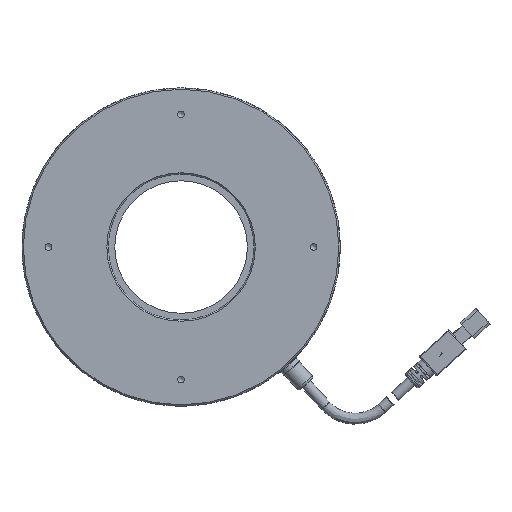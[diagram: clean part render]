
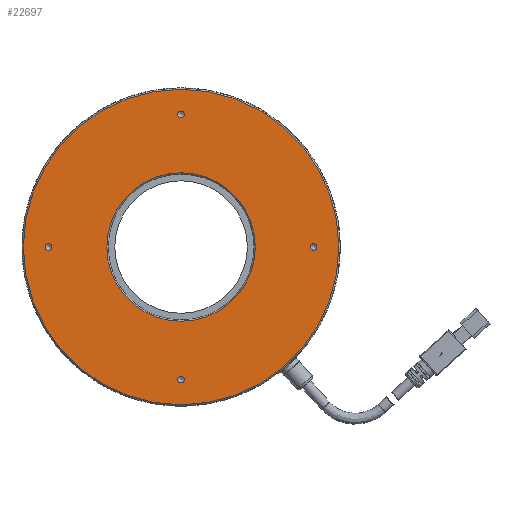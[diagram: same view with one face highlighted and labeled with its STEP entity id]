
A CAD part, front view. The second image highlights one B-rep face of the part: STEP entity #22697.
In plain terms, the highlighted planar face has unit normal (0, -1, 0).
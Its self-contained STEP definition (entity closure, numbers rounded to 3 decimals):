
#128 = CIRCLE ( 'NONE', #17377, 1.25 ) ;
#738 = CARTESIAN_POINT ( 'NONE',  ( 0., -49.548, 0. ) ) ;
#1035 = CARTESIAN_POINT ( 'NONE',  ( 0., -49.548, 51.25 ) ) ;
#1559 = FACE_BOUND ( 'NONE', #19462, .T. ) ;
#2240 = CARTESIAN_POINT ( 'NONE',  ( 0., -49.548, 50. ) ) ;
#2723 = CARTESIAN_POINT ( 'NONE',  ( 0., -49.548, -28. ) ) ;
#2877 = VERTEX_POINT ( 'NONE', #2723 ) ;
#3499 = CARTESIAN_POINT ( 'NONE',  ( 0., -49.548, -50. ) ) ;
#3690 = VERTEX_POINT ( 'NONE', #1035 ) ;
#4057 = EDGE_CURVE ( 'NONE', #2877, #2877, #12214, .T. ) ;
#4142 = FACE_BOUND ( 'NONE', #17234, .T. ) ;
#5537 = DIRECTION ( 'NONE',  ( 0., 0., 1. ) ) ;
#5565 = CARTESIAN_POINT ( 'NONE',  ( -50., -49.548, 1.25 ) ) ;
#6412 = EDGE_CURVE ( 'NONE', #7146, #7146, #13319, .T. ) ;
#7146 = VERTEX_POINT ( 'NONE', #30111 ) ;
#7564 = VERTEX_POINT ( 'NONE', #5565 ) ;
#7938 = CARTESIAN_POINT ( 'NONE',  ( -27.5, -49.548, 0. ) ) ;
#8847 = CARTESIAN_POINT ( 'NONE',  ( -50., -49.548, 0. ) ) ;
#11619 = DIRECTION ( 'NONE',  ( 0., -1., 0. ) ) ;
#12214 = CIRCLE ( 'NONE', #22526, 28. ) ;
#12660 = VERTEX_POINT ( 'NONE', #24609 ) ;
#13319 = CIRCLE ( 'NONE', #15546, 1.25 ) ;
#15546 = AXIS2_PLACEMENT_3D ( 'NONE', #3499, #31149, #19941 ) ;
#15590 = ORIENTED_EDGE ( 'NONE', *, *, #18210, .T. ) ;
#15661 = VERTEX_POINT ( 'NONE', #32966 ) ;
#15685 = FACE_BOUND ( 'NONE', #23568, .T. ) ;
#15708 = EDGE_CURVE ( 'NONE', #7564, #7564, #35069, .T. ) ;
#16282 = AXIS2_PLACEMENT_3D ( 'NONE', #2240, #21524, #34727 ) ;
#16408 = CIRCLE ( 'NONE', #16282, 1.25 ) ;
#16447 = AXIS2_PLACEMENT_3D ( 'NONE', #738, #28012, #19916 ) ;
#17157 = DIRECTION ( 'NONE',  ( 0., 1., 0. ) ) ;
#17234 = EDGE_LOOP ( 'NONE', ( #21810 ) ) ;
#17377 = AXIS2_PLACEMENT_3D ( 'NONE', #22365, #17157, #32983 ) ;
#17818 = EDGE_CURVE ( 'NONE', #12660, #12660, #25424, .T. ) ;
#18145 = ORIENTED_EDGE ( 'NONE', *, *, #4057, .F. ) ;
#18210 = EDGE_CURVE ( 'NONE', #15661, #15661, #128, .T. ) ;
#19462 = EDGE_LOOP ( 'NONE', ( #18145 ) ) ;
#19489 = EDGE_LOOP ( 'NONE', ( #33263 ) ) ;
#19916 = DIRECTION ( 'NONE',  ( 0., 0., 1. ) ) ;
#19940 = DIRECTION ( 'NONE',  ( 0., 0., -1. ) ) ;
#19941 = DIRECTION ( 'NONE',  ( 0., 0., 1. ) ) ;
#21524 = DIRECTION ( 'NONE',  ( 0., 1., 0. ) ) ;
#21733 = PLANE ( 'NONE',  #30942 ) ;
#21810 = ORIENTED_EDGE ( 'NONE', *, *, #6412, .T. ) ;
#22365 = CARTESIAN_POINT ( 'NONE',  ( 50., -49.548, 0. ) ) ;
#22526 = AXIS2_PLACEMENT_3D ( 'NONE', #27923, #11619, #19940 ) ;
#22697 = ADVANCED_FACE ( 'NONE', ( #23300, #1559, #4142, #34800, #31028, #15685 ), #21733, .F. ) ;
#23300 = FACE_OUTER_BOUND ( 'NONE', #25866, .T. ) ;
#23568 = EDGE_LOOP ( 'NONE', ( #15590 ) ) ;
#24609 = CARTESIAN_POINT ( 'NONE',  ( 0., -49.548, 59.5 ) ) ;
#25269 = DIRECTION ( 'NONE',  ( 0., 0., 1. ) ) ;
#25424 = CIRCLE ( 'NONE', #16447, 59.5 ) ;
#25866 = EDGE_LOOP ( 'NONE', ( #27536 ) ) ;
#26989 = DIRECTION ( 'NONE',  ( 0., 1., 0. ) ) ;
#27536 = ORIENTED_EDGE ( 'NONE', *, *, #17818, .F. ) ;
#27548 = EDGE_LOOP ( 'NONE', ( #31687 ) ) ;
#27655 = DIRECTION ( 'NONE',  ( 0., 1., 0. ) ) ;
#27923 = CARTESIAN_POINT ( 'NONE',  ( 0., -49.548, 0. ) ) ;
#28012 = DIRECTION ( 'NONE',  ( 0., 1., 0. ) ) ;
#30111 = CARTESIAN_POINT ( 'NONE',  ( 0., -49.548, -48.75 ) ) ;
#30130 = EDGE_CURVE ( 'NONE', #3690, #3690, #16408, .T. ) ;
#30942 = AXIS2_PLACEMENT_3D ( 'NONE', #7938, #26989, #5537 ) ;
#31028 = FACE_BOUND ( 'NONE', #19489, .T. ) ;
#31149 = DIRECTION ( 'NONE',  ( 0., 1., 0. ) ) ;
#31687 = ORIENTED_EDGE ( 'NONE', *, *, #15708, .T. ) ;
#32966 = CARTESIAN_POINT ( 'NONE',  ( 50., -49.548, 1.25 ) ) ;
#32983 = DIRECTION ( 'NONE',  ( 0., 0., 1. ) ) ;
#33263 = ORIENTED_EDGE ( 'NONE', *, *, #30130, .T. ) ;
#34508 = AXIS2_PLACEMENT_3D ( 'NONE', #8847, #27655, #25269 ) ;
#34727 = DIRECTION ( 'NONE',  ( 0., 0., 1. ) ) ;
#34800 = FACE_BOUND ( 'NONE', #27548, .T. ) ;
#35069 = CIRCLE ( 'NONE', #34508, 1.25 ) ;
